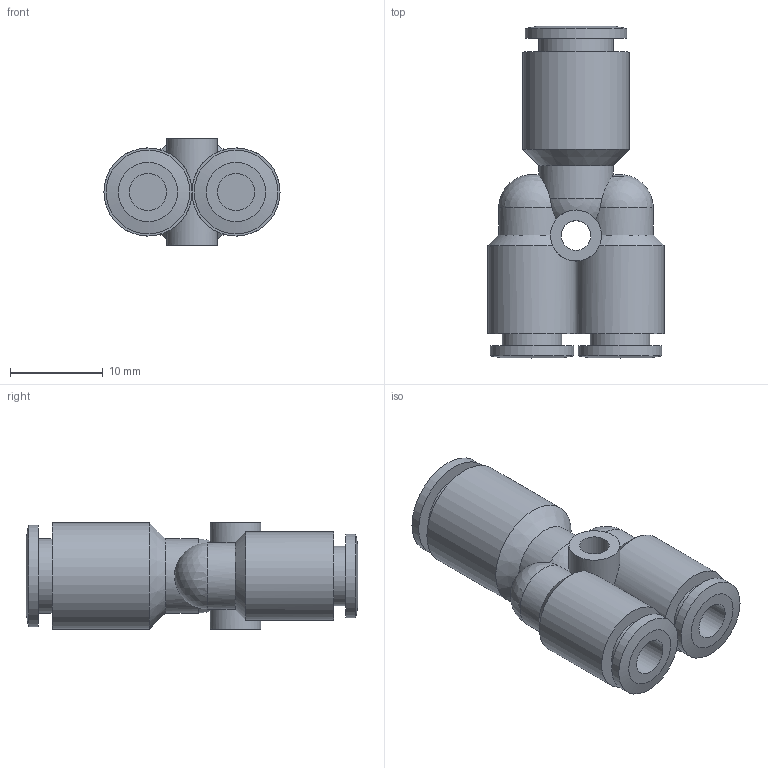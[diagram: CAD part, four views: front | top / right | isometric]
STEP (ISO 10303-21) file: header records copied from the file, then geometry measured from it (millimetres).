
FILE_DESCRIPTION((''),'2;1');
FILE_NAME('C:\Documents and Settings\rivolro1\Documenti\copia di Raccordi\PLASTICA\T23XXXX\T230406.stp','2007-11-02T14:44:18',('Rivolro1'),(''),'Autodesk Inventor 2008','Autodesk Inventor 2008','');
FILE_SCHEMA(('AUTOMOTIVE_DESIGN { 1 0 10303 214 1 1 1 1 }'));
Length unit declared in the file: millimetre
Products named in the file (1): T230406
Bounding box: 19 x 35.8 x 11.5 mm (x, y, z)
Volume: 3172.7 mm3; surface area: 2784.3 mm2
Topology: 1 solids, 1 shells, 42 faces, 98 edges, 60 vertices
Faces by surface type: cylinder 17, plane 14, cone 6, sphere 4, bspline 1
Full cylindrical faces by diameter (mm): 4 x2, 5.5 x2, 6 x1, 6.4 x2, 8 x2, 9 x2, 9.5 x2, 11 x1, 11.5 x1
Entity records: 1345 total; most frequent: CARTESIAN_POINT 450, DIRECTION 182, ORIENTED_EDGE 140, AXIS2_PLACEMENT_3D 90, EDGE_LOOP 71, EDGE_CURVE 70, VERTEX_POINT 56, CIRCLE 48
